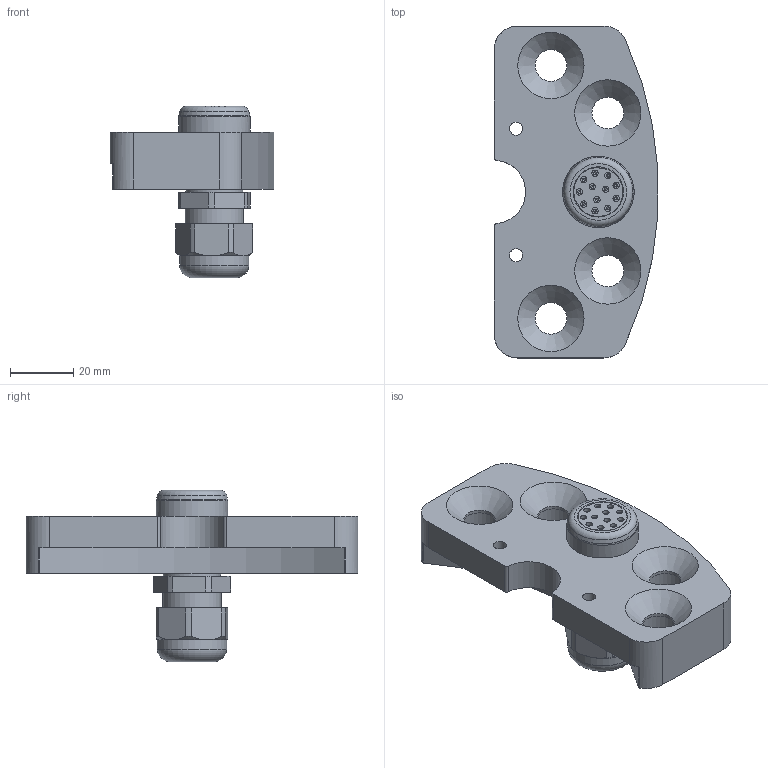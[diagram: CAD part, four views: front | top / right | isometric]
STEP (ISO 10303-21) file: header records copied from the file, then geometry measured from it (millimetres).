
FILE_DESCRIPTION(/* description */ (''),/* implementation_level */ '2;1');
FILE_NAME(/* name */ 'T:\Engineering\Homepage\Homepage 2020\4 3D Step-Daten - Homepage\5 MEK\G-MEK160-U-4G3_8-1E12.stp',/* time_stamp */ '2023-01-06T10:45:35+01:00',/* author */ ('ysplieth'),/* organization */ (''),/* preprocessor_version */ 'ST-DEVELOPER v17',/* originating_system */ 'Autodesk Inventor 2018',/* authorisation */ '');
FILE_SCHEMA (('AUTOMOTIVE_DESIGN { 1 0 10303 214 3 1 1 }'));
Length unit declared in the file: millimetre
Products named in the file (1): Bauteil1
Bounding box: 51.88 x 105 x 54.2 mm (x, y, z)
Volume: 74259.3 mm3; surface area: 24892.4 mm2
Topology: 1 solids, 1 shells, 274 faces, 786 edges, 523 vertices
Faces by surface type: cylinder 123, plane 107, cone 41, torus 3
Full cylindrical faces by diameter (mm): 1 x12, 1.6 x12, 2 x17, 2.013 x2, 4.134 x2, 10 x5, 14.95 x4, 15.9 x1, 17 x1, 17.1 x1, 18.1 x1, 18.5 x1, 22 x1, 22.6 x1
Entity records: 10087 total; most frequent: CARTESIAN_POINT 2294, DIRECTION 1634, ORIENTED_EDGE 1544, EDGE_CURVE 772, AXIS2_PLACEMENT_3D 634, VERTEX_POINT 523, LINE 366, VECTOR 366
